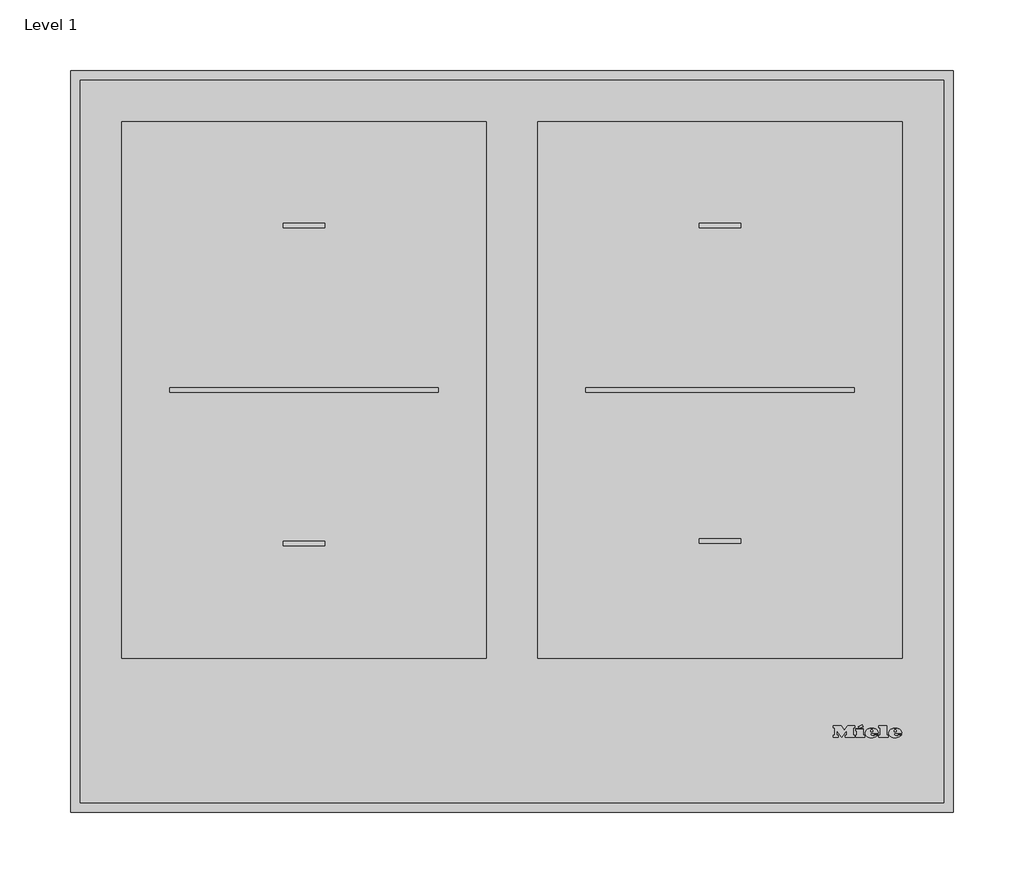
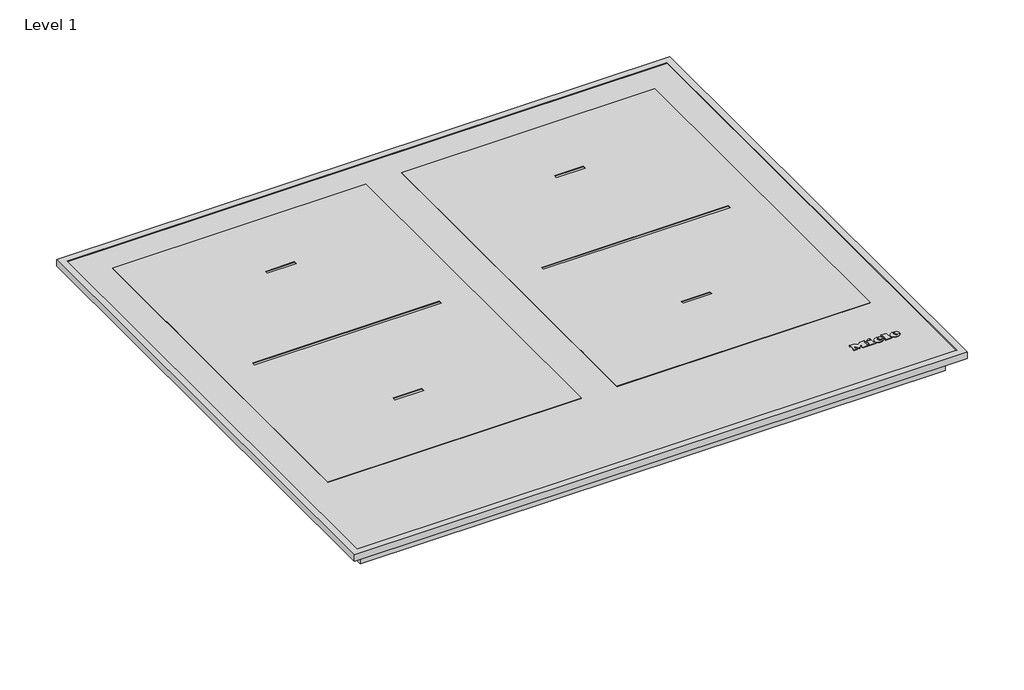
# One storey: 1 proxy.
"""IFC4 building model written with IfcOpenShell, lengths in millimetres."""

from ifc_helpers import new_model, si_unit, origin, place, context, project, spatial, transform, mapped, element, save
from components import specialty_equipment_dd4745b3

model = new_model("IFC4")

# Units and contexts
model_context = context("Model", 3, world=origin())
ifc_project = project(units=[si_unit("LENGTHUNIT", "METRE", prefix="MILLI")], contexts=[model_context])

# Site, building, storey
site = spatial("IfcSite", under=ifc_project)
building = spatial("IfcBuilding", under=site)
storey = spatial("IfcBuildingStorey", under=building, Name="Level 1", Elevation=0.0)

# Proxy
placement = place(None, origin())
specialty_equipment_shape = specialty_equipment_dd4745b3(model_context)
element("IfcBuildingElementProxy", 1, Name="11022950_D_KM7564FR : 26756400_D_11022950_KM7564FR", ObjectType="11022950_D_KM7564FR : 26756400_D_11022950_KM7564FR", at=placement, inside=storey, context=model_context, shape_type="MappedRepresentation", body=[
    mapped(specialty_equipment_shape, transform((0.0, 0.0, 0.0), x_axis=(1.0, 0.0, 0.0), y_axis=(0.0, 1.0, 0.0), z_axis=(0.0, 0.0, 1.0))),
])

save(model, "model.ifc")
